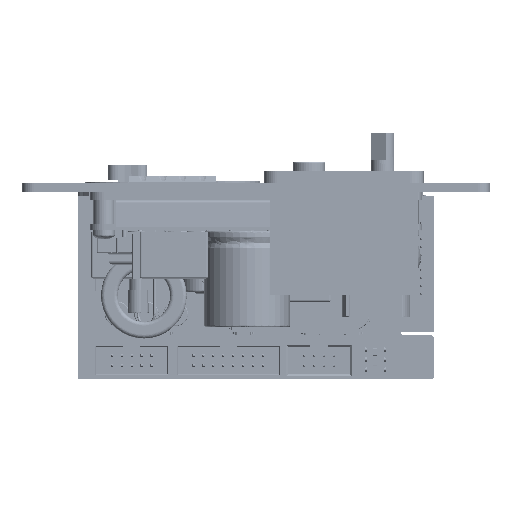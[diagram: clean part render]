
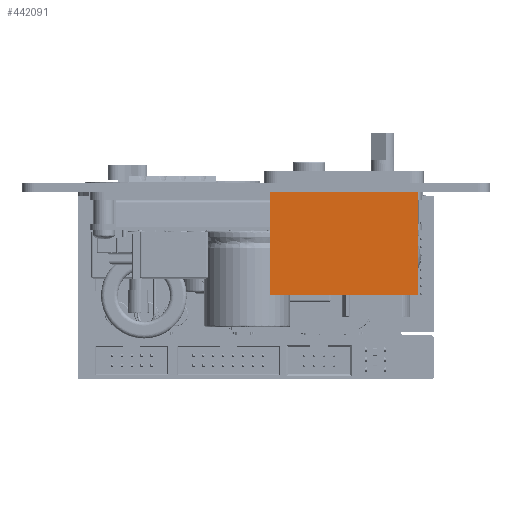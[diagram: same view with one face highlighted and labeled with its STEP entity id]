
A CAD part, front view. The second image highlights one B-rep face of the part: STEP entity #442091.
In plain terms, the highlighted planar face has unit normal (0, -1, 0) as drawn and (1, 0, 0) by its records, which use the part's own axes.
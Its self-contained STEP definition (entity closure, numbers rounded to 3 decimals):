
#13757 = DIRECTION ( 'NONE',  ( 0., 0., 1. ) ) ;
#14034 = VECTOR ( 'NONE', #1104643, 1000. ) ;
#60633 = CARTESIAN_POINT ( 'NONE',  ( 13.45, -19., -31.9 ) ) ;
#83745 = AXIS2_PLACEMENT_3D ( 'NONE', #748531, #277993, #1111607 ) ;
#130452 = CARTESIAN_POINT ( 'NONE',  ( 13.45, -19., -3. ) ) ;
#215693 = DIRECTION ( 'NONE',  ( 0., 0., 1. ) ) ;
#220383 = CARTESIAN_POINT ( 'NONE',  ( 13.45, 19., -3. ) ) ;
#223977 = VECTOR ( 'NONE', #1043368, 1000. ) ;
#224112 = LINE ( 'NONE', #1024535, #382335 ) ;
#277993 = DIRECTION ( 'NONE',  ( -1., 0., 0. ) ) ;
#317190 = ORIENTED_EDGE ( 'NONE', *, *, #1177688, .T. ) ;
#363485 = CARTESIAN_POINT ( 'NONE',  ( 13.45, -19., -3. ) ) ;
#382335 = VECTOR ( 'NONE', #13757, 1000. ) ;
#433682 = EDGE_LOOP ( 'NONE', ( #317190, #823515, #1120920, #903059 ) ) ;
#442091 = ADVANCED_FACE ( 'NONE', ( #673384 ), #648032, .F. ) ;
#489253 = VERTEX_POINT ( 'NONE', #130452 ) ;
#618450 = EDGE_CURVE ( 'NONE', #939815, #941198, #224112, .T. ) ;
#648032 = PLANE ( 'NONE',  #83745 ) ;
#670210 = EDGE_CURVE ( 'NONE', #743959, #489253, #1049076, .T. ) ;
#673384 = FACE_OUTER_BOUND ( 'NONE', #433682, .T. ) ;
#704578 = CARTESIAN_POINT ( 'NONE',  ( 13.45, -19., -31.9 ) ) ;
#736745 = EDGE_CURVE ( 'NONE', #939815, #743959, #1190158, .T. ) ;
#743959 = VERTEX_POINT ( 'NONE', #60633 ) ;
#748531 = CARTESIAN_POINT ( 'NONE',  ( 13.45, -19., -31.9 ) ) ;
#759046 = CARTESIAN_POINT ( 'NONE',  ( 13.45, -19., -31.9 ) ) ;
#823515 = ORIENTED_EDGE ( 'NONE', *, *, #670210, .F. ) ;
#903059 = ORIENTED_EDGE ( 'NONE', *, *, #618450, .T. ) ;
#933186 = VECTOR ( 'NONE', #215693, 1000. ) ;
#935943 = LINE ( 'NONE', #363485, #14034 ) ;
#939815 = VERTEX_POINT ( 'NONE', #1117571 ) ;
#941198 = VERTEX_POINT ( 'NONE', #220383 ) ;
#1024535 = CARTESIAN_POINT ( 'NONE',  ( 13.45, 19., -31.9 ) ) ;
#1043368 = DIRECTION ( 'NONE',  ( 0., -1., 0. ) ) ;
#1049076 = LINE ( 'NONE', #759046, #933186 ) ;
#1104643 = DIRECTION ( 'NONE',  ( 0., -1., 0. ) ) ;
#1111607 = DIRECTION ( 'NONE',  ( 0., 0., 1. ) ) ;
#1117571 = CARTESIAN_POINT ( 'NONE',  ( 13.45, 19., -31.9 ) ) ;
#1120920 = ORIENTED_EDGE ( 'NONE', *, *, #736745, .F. ) ;
#1177688 = EDGE_CURVE ( 'NONE', #941198, #489253, #935943, .T. ) ;
#1190158 = LINE ( 'NONE', #704578, #223977 ) ;
